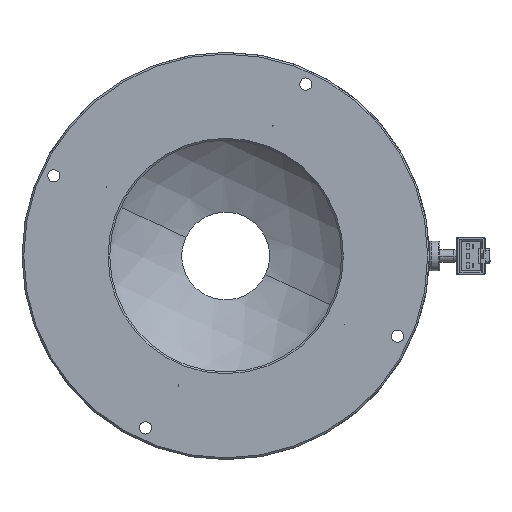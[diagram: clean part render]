
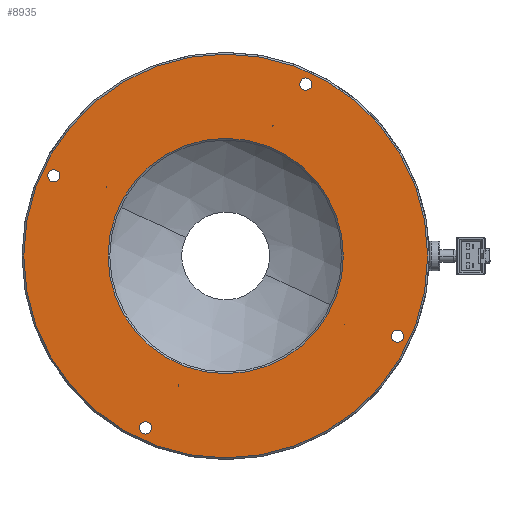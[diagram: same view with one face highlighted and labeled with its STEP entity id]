
A CAD part, front view. The second image highlights one B-rep face of the part: STEP entity #8935.
In plain terms, the highlighted planar face has unit normal (0, -1, 0).
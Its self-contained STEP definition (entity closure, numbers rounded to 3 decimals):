
#79 = EDGE_LOOP ( 'NONE', ( #23293, #12998 ) ) ;
#162 = AXIS2_PLACEMENT_3D ( 'NONE', #23568, #10344, #7642 ) ;
#211 = PLANE ( 'NONE',  #25013 ) ;
#817 = CARTESIAN_POINT ( 'NONE',  ( -51.671, -13.574, 138.821 ) ) ;
#1247 = VERTEX_POINT ( 'NONE', #1731 ) ;
#1392 = CIRCLE ( 'NONE', #19169, 33.5 ) ;
#1467 = FACE_BOUND ( 'NONE', #19868, .T. ) ;
#1731 = CARTESIAN_POINT ( 'NONE',  ( -2.73, -13.574, 58.5 ) ) ;
#2113 = ORIENTED_EDGE ( 'NONE', *, *, #27702, .T. ) ;
#2183 = CIRCLE ( 'NONE', #7570, 1.75 ) ;
#2254 = ORIENTED_EDGE ( 'NONE', *, *, #7721, .T. ) ;
#2569 = VERTEX_POINT ( 'NONE', #30414 ) ;
#2632 = ORIENTED_EDGE ( 'NONE', *, *, #25761, .T. ) ;
#3163 = DIRECTION ( 'NONE',  ( 0., 0., 1. ) ) ;
#3480 = EDGE_CURVE ( 'NONE', #5129, #9365, #31867, .T. ) ;
#3898 = CARTESIAN_POINT ( 'NONE',  ( 46.21, -13.574, 91.429 ) ) ;
#4692 = DIRECTION ( 'NONE',  ( 0., 1., 0. ) ) ;
#4796 = AXIS2_PLACEMENT_3D ( 'NONE', #12203, #4692, #17780 ) ;
#5087 = DIRECTION ( 'NONE',  ( 0., 1., 0. ) ) ;
#5129 = VERTEX_POINT ( 'NONE', #19499 ) ;
#5229 = AXIS2_PLACEMENT_3D ( 'NONE', #20223, #33564, #31002 ) ;
#5232 = FACE_OUTER_BOUND ( 'NONE', #19435, .T. ) ;
#6047 = DIRECTION ( 'NONE',  ( 0., 0., 1. ) ) ;
#6053 = CIRCLE ( 'NONE', #162, 57.5 ) ;
#6364 = CARTESIAN_POINT ( 'NONE',  ( -2.73, -13.574, 173.5 ) ) ;
#6840 = DIRECTION ( 'NONE',  ( 0., 1., 0. ) ) ;
#7371 = CIRCLE ( 'NONE', #15158, 33.5 ) ;
#7570 = AXIS2_PLACEMENT_3D ( 'NONE', #23708, #23258, #18502 ) ;
#7642 = DIRECTION ( 'NONE',  ( 0., 0., 1. ) ) ;
#7721 = EDGE_CURVE ( 'NONE', #2569, #12360, #7371, .T. ) ;
#7825 = CIRCLE ( 'NONE', #32352, 57.5 ) ;
#8036 = CIRCLE ( 'NONE', #25476, 1.75 ) ;
#8297 = DIRECTION ( 'NONE',  ( 0., 1., 0. ) ) ;
#8935 = ADVANCED_FACE ( 'NONE', ( #5232, #12741, #25214, #22737, #15625, #1467 ), #211, .F. ) ;
#9158 = DIRECTION ( 'NONE',  ( 0., 0., 1. ) ) ;
#9365 = VERTEX_POINT ( 'NONE', #18138 ) ;
#9384 = CARTESIAN_POINT ( 'NONE',  ( -2.73, -13.574, 82.5 ) ) ;
#10190 = VERTEX_POINT ( 'NONE', #28994 ) ;
#10305 = AXIS2_PLACEMENT_3D ( 'NONE', #11969, #6840, #27999 ) ;
#10312 = CIRCLE ( 'NONE', #16864, 1.75 ) ;
#10344 = DIRECTION ( 'NONE',  ( 0., -1., 0. ) ) ;
#11065 = DIRECTION ( 'NONE',  ( 0., 1., 0. ) ) ;
#11152 = VERTEX_POINT ( 'NONE', #32287 ) ;
#11539 = VERTEX_POINT ( 'NONE', #31879 ) ;
#11908 = ORIENTED_EDGE ( 'NONE', *, *, #24521, .T. ) ;
#11969 = CARTESIAN_POINT ( 'NONE',  ( 46.21, -13.574, 93.179 ) ) ;
#12123 = VERTEX_POINT ( 'NONE', #6364 ) ;
#12203 = CARTESIAN_POINT ( 'NONE',  ( -25.552, -13.574, 67.059 ) ) ;
#12360 = VERTEX_POINT ( 'NONE', #9384 ) ;
#12741 = FACE_BOUND ( 'NONE', #28302, .T. ) ;
#12824 = ORIENTED_EDGE ( 'NONE', *, *, #18140, .T. ) ;
#12998 = ORIENTED_EDGE ( 'NONE', *, *, #3480, .T. ) ;
#13261 = DIRECTION ( 'NONE',  ( 0., 0., 1. ) ) ;
#13630 = ORIENTED_EDGE ( 'NONE', *, *, #32639, .T. ) ;
#13699 = DIRECTION ( 'NONE',  ( 0., 0., 1. ) ) ;
#14067 = CARTESIAN_POINT ( 'NONE',  ( -2.73, -13.574, 116. ) ) ;
#14218 = CIRCLE ( 'NONE', #10305, 1.75 ) ;
#14521 = CIRCLE ( 'NONE', #4796, 1.75 ) ;
#15158 = AXIS2_PLACEMENT_3D ( 'NONE', #14067, #11065, #6047 ) ;
#15625 = FACE_BOUND ( 'NONE', #79, .T. ) ;
#15762 = CARTESIAN_POINT ( 'NONE',  ( 46.21, -13.574, 94.929 ) ) ;
#15914 = DIRECTION ( 'NONE',  ( 0., 0., 1. ) ) ;
#16459 = DIRECTION ( 'NONE',  ( 0., 1., 0. ) ) ;
#16864 = AXIS2_PLACEMENT_3D ( 'NONE', #817, #32952, #33518 ) ;
#17780 = DIRECTION ( 'NONE',  ( 0., 0., 1. ) ) ;
#18138 = CARTESIAN_POINT ( 'NONE',  ( -51.671, -13.574, 140.571 ) ) ;
#18140 = EDGE_CURVE ( 'NONE', #20571, #20759, #14218, .T. ) ;
#18502 = DIRECTION ( 'NONE',  ( 0., 0., 1. ) ) ;
#18587 = EDGE_LOOP ( 'NONE', ( #33810, #20380 ) ) ;
#19040 = CARTESIAN_POINT ( 'NONE',  ( -2.73, -13.574, 116. ) ) ;
#19169 = AXIS2_PLACEMENT_3D ( 'NONE', #19040, #16459, #3163 ) ;
#19435 = EDGE_LOOP ( 'NONE', ( #11908, #13630 ) ) ;
#19499 = CARTESIAN_POINT ( 'NONE',  ( -51.671, -13.574, 137.071 ) ) ;
#19530 = CARTESIAN_POINT ( 'NONE',  ( 20.091, -13.574, 166.691 ) ) ;
#19585 = CARTESIAN_POINT ( 'NONE',  ( -51.671, -13.574, 138.821 ) ) ;
#19847 = DIRECTION ( 'NONE',  ( 0., -1., 0. ) ) ;
#19868 = EDGE_LOOP ( 'NONE', ( #33002, #23596 ) ) ;
#20223 = CARTESIAN_POINT ( 'NONE',  ( 20.091, -13.574, 164.941 ) ) ;
#20380 = ORIENTED_EDGE ( 'NONE', *, *, #26758, .T. ) ;
#20571 = VERTEX_POINT ( 'NONE', #3898 ) ;
#20759 = VERTEX_POINT ( 'NONE', #15762 ) ;
#21034 = EDGE_CURVE ( 'NONE', #34550, #10190, #29102, .T. ) ;
#22737 = FACE_BOUND ( 'NONE', #18587, .T. ) ;
#22768 = EDGE_CURVE ( 'NONE', #9365, #5129, #10312, .T. ) ;
#23023 = AXIS2_PLACEMENT_3D ( 'NONE', #29663, #8297, #27118 ) ;
#23258 = DIRECTION ( 'NONE',  ( 0., 1., 0. ) ) ;
#23293 = ORIENTED_EDGE ( 'NONE', *, *, #22768, .T. ) ;
#23568 = CARTESIAN_POINT ( 'NONE',  ( -2.73, -13.574, 116. ) ) ;
#23596 = ORIENTED_EDGE ( 'NONE', *, *, #31499, .T. ) ;
#23708 = CARTESIAN_POINT ( 'NONE',  ( 20.091, -13.574, 164.941 ) ) ;
#23905 = CIRCLE ( 'NONE', #23023, 1.75 ) ;
#24197 = DIRECTION ( 'NONE',  ( 0., 1., 0. ) ) ;
#24521 = EDGE_CURVE ( 'NONE', #12123, #1247, #6053, .T. ) ;
#25013 = AXIS2_PLACEMENT_3D ( 'NONE', #29537, #24197, #13261 ) ;
#25214 = FACE_BOUND ( 'NONE', #25995, .T. ) ;
#25476 = AXIS2_PLACEMENT_3D ( 'NONE', #32290, #29610, #13699 ) ;
#25761 = EDGE_CURVE ( 'NONE', #12360, #2569, #1392, .T. ) ;
#25995 = EDGE_LOOP ( 'NONE', ( #2113, #12824 ) ) ;
#26758 = EDGE_CURVE ( 'NONE', #10190, #34550, #2183, .T. ) ;
#27118 = DIRECTION ( 'NONE',  ( 0., 0., 1. ) ) ;
#27702 = EDGE_CURVE ( 'NONE', #20759, #20571, #23905, .T. ) ;
#27846 = CARTESIAN_POINT ( 'NONE',  ( -2.73, -13.574, 116. ) ) ;
#27999 = DIRECTION ( 'NONE',  ( 0., 0., 1. ) ) ;
#28258 = EDGE_CURVE ( 'NONE', #11152, #11539, #8036, .T. ) ;
#28302 = EDGE_LOOP ( 'NONE', ( #2632, #2254 ) ) ;
#28994 = CARTESIAN_POINT ( 'NONE',  ( 20.091, -13.574, 163.191 ) ) ;
#29102 = CIRCLE ( 'NONE', #5229, 1.75 ) ;
#29537 = CARTESIAN_POINT ( 'NONE',  ( -35.73, -13.574, 116. ) ) ;
#29610 = DIRECTION ( 'NONE',  ( 0., 1., 0. ) ) ;
#29663 = CARTESIAN_POINT ( 'NONE',  ( 46.21, -13.574, 93.179 ) ) ;
#30414 = CARTESIAN_POINT ( 'NONE',  ( -2.73, -13.574, 149.5 ) ) ;
#31002 = DIRECTION ( 'NONE',  ( 0., 0., 1. ) ) ;
#31499 = EDGE_CURVE ( 'NONE', #11539, #11152, #14521, .T. ) ;
#31771 = AXIS2_PLACEMENT_3D ( 'NONE', #19585, #5087, #15914 ) ;
#31867 = CIRCLE ( 'NONE', #31771, 1.75 ) ;
#31879 = CARTESIAN_POINT ( 'NONE',  ( -25.552, -13.574, 65.309 ) ) ;
#32287 = CARTESIAN_POINT ( 'NONE',  ( -25.552, -13.574, 68.809 ) ) ;
#32290 = CARTESIAN_POINT ( 'NONE',  ( -25.552, -13.574, 67.059 ) ) ;
#32352 = AXIS2_PLACEMENT_3D ( 'NONE', #27846, #19847, #9158 ) ;
#32639 = EDGE_CURVE ( 'NONE', #1247, #12123, #7825, .T. ) ;
#32952 = DIRECTION ( 'NONE',  ( 0., 1., 0. ) ) ;
#33002 = ORIENTED_EDGE ( 'NONE', *, *, #28258, .T. ) ;
#33518 = DIRECTION ( 'NONE',  ( 0., 0., 1. ) ) ;
#33564 = DIRECTION ( 'NONE',  ( 0., 1., 0. ) ) ;
#33810 = ORIENTED_EDGE ( 'NONE', *, *, #21034, .T. ) ;
#34550 = VERTEX_POINT ( 'NONE', #19530 ) ;
